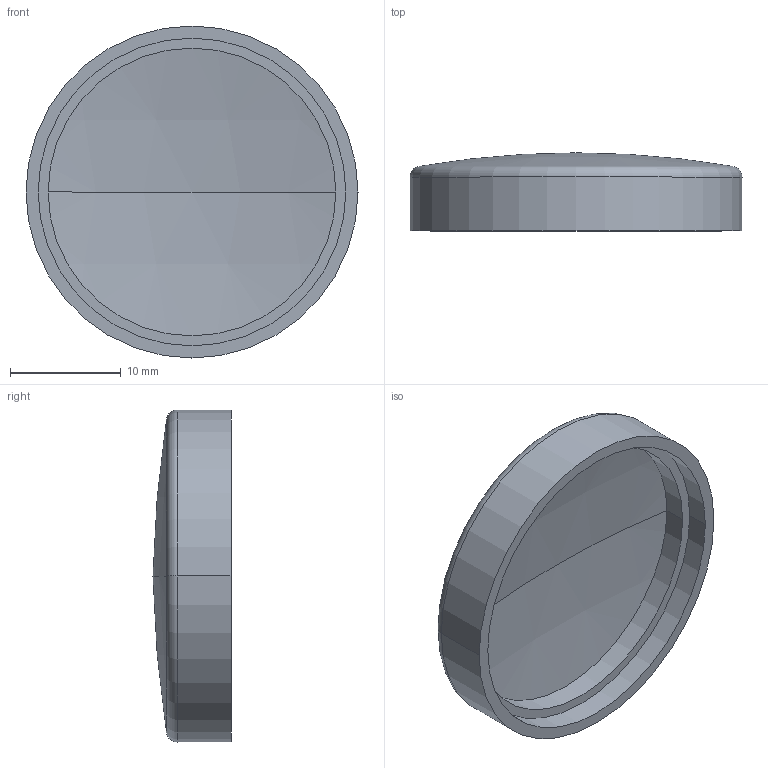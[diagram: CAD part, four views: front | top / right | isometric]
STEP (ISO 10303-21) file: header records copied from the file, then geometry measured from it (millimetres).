
FILE_DESCRIPTION (( 'STEP AP214' ), '1' );
FILE_NAME ('G_6.STEP', '2016-02-27T15:48:07', ( '' ), ( '' ), 'SwSTEP 2.0', 'SolidWorks 2012', '' );
FILE_SCHEMA (( 'AUTOMOTIVE_DESIGN' ));
Length unit declared in the file: millimetre
Products named in the file (1): G_6
Bounding box: 30 x 7.05 x 30 mm (x, y, z)
Volume: 1933.4 mm3; surface area: 2269.9 mm2
Topology: 1 solids, 1 shells, 14 faces, 26 edges, 16 vertices
Faces by surface type: cylinder 6, sphere 4, torus 2, plane 2
Entity records: 392 total; most frequent: DIRECTION 76, CARTESIAN_POINT 57, ORIENTED_EDGE 52, AXIS2_PLACEMENT_3D 35, EDGE_CURVE 26, CIRCLE 20, VERTEX_POINT 16, EDGE_LOOP 16
